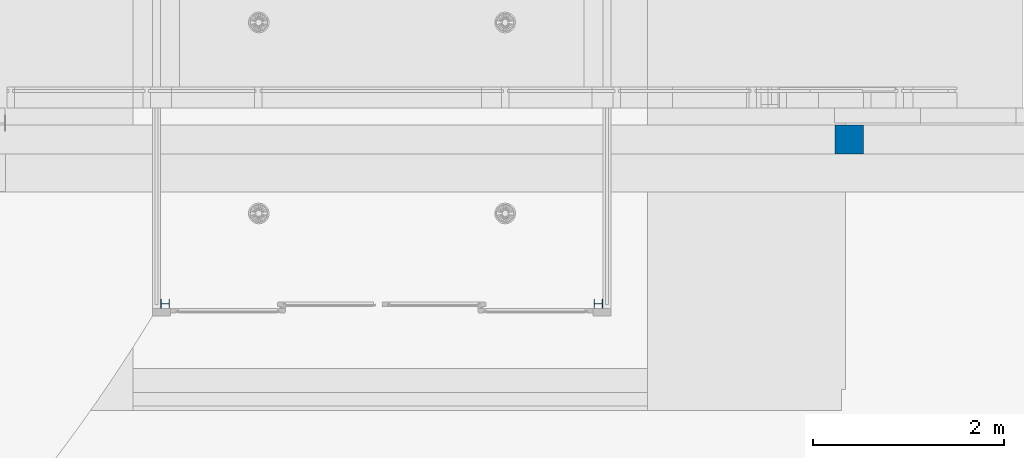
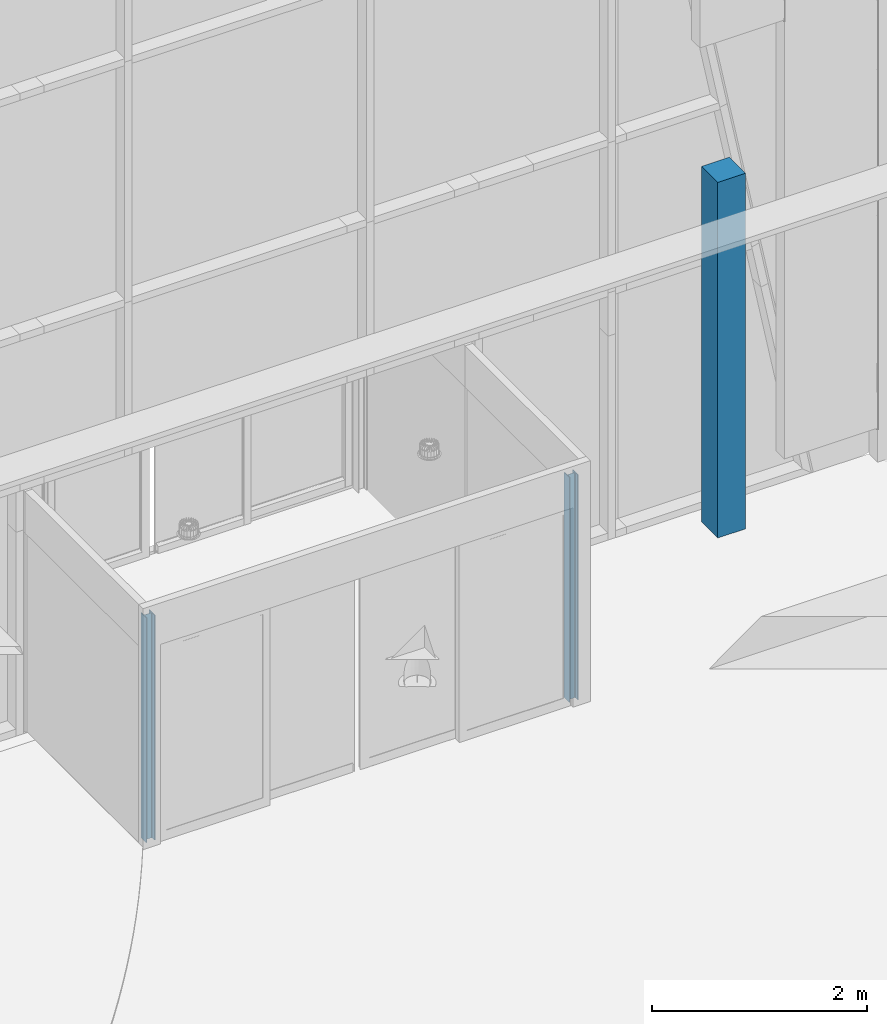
# One storey, part 4 of 302: 3 columns.
"""IFC2X3 building model written with IfcOpenShell, lengths in metres."""

from ifc_helpers import new_model, entity, si_unit, converted_unit, derived_unit, direction, frame, frame_2d, origin, origin_2d_with_axis, place, context, subcontext, project, spatial, polyline, circle_curve, parameter, trimmed, segment, composite_curve, rectangle, i_section, outline, extrude, source, transform, mapped, material, type_object, type_shapes, element, save


model = new_model("IFC2X3")

# Units and contexts
model_context = context("Model", 3, precision=1e-05, world=origin(), true_north=direction((6.12303176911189e-17, 1.0)))
body_context = subcontext(model_context, "Body", "Model", "MODEL_VIEW")
ifc_project = project(units=[si_unit("LENGTHUNIT", "METRE"), si_unit("AREAUNIT", "SQUARE_METRE"), si_unit("VOLUMEUNIT", "CUBIC_METRE"), converted_unit("PLANEANGLEUNIT", "DEGREE", entity("IfcRatioMeasure", 0.0174532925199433), si_unit("PLANEANGLEUNIT", "RADIAN"), dimensions=[0, 0, 0, 0, 0, 0, 0]), si_unit("MASSUNIT", "GRAM", prefix="KILO"), derived_unit("MASSDENSITYUNIT", [(si_unit("MASSUNIT", "GRAM", prefix="KILO"), 1), (si_unit("LENGTHUNIT", "METRE"), -3)]), derived_unit("MOMENTOFINERTIAUNIT", [(si_unit("LENGTHUNIT", "METRE"), 4)]), si_unit("TIMEUNIT", "SECOND"), si_unit("FREQUENCYUNIT", "HERTZ"), si_unit("THERMODYNAMICTEMPERATUREUNIT", "DEGREE_CELSIUS"), derived_unit("THERMALTRANSMITTANCEUNIT", [(si_unit("MASSUNIT", "GRAM", prefix="KILO"), 1), (si_unit("THERMODYNAMICTEMPERATUREUNIT", "KELVIN"), -1), (si_unit("TIMEUNIT", "SECOND"), -3)]), derived_unit("VOLUMETRICFLOWRATEUNIT", [(si_unit("LENGTHUNIT", "METRE"), 3), (si_unit("TIMEUNIT", "SECOND"), -1)]), si_unit("ELECTRICCURRENTUNIT", "AMPERE"), si_unit("ELECTRICVOLTAGEUNIT", "VOLT"), si_unit("POWERUNIT", "WATT"), si_unit("FORCEUNIT", "NEWTON", prefix="KILO"), si_unit("ILLUMINANCEUNIT", "LUX"), si_unit("LUMINOUSFLUXUNIT", "LUMEN"), si_unit("LUMINOUSINTENSITYUNIT", "CANDELA"), derived_unit("USERDEFINED", [(si_unit("MASSUNIT", "GRAM", prefix="KILO"), -1), (si_unit("LENGTHUNIT", "METRE"), -2), (si_unit("TIMEUNIT", "SECOND"), 3), (si_unit("LUMINOUSFLUXUNIT", "LUMEN"), 1)]), derived_unit("LINEARVELOCITYUNIT", [(si_unit("LENGTHUNIT", "METRE"), 1), (si_unit("TIMEUNIT", "SECOND"), -1)]), si_unit("PRESSUREUNIT", "PASCAL"), derived_unit("USERDEFINED", [(si_unit("LENGTHUNIT", "METRE"), -2), (si_unit("MASSUNIT", "GRAM", prefix="KILO"), 1), (si_unit("TIMEUNIT", "SECOND"), -2)]), derived_unit("LINEARFORCEUNIT", [(si_unit("MASSUNIT", "GRAM", prefix="KILO"), 1), (si_unit("LENGTHUNIT", "METRE"), 1), (si_unit("TIMEUNIT", "SECOND"), -2), (si_unit("LENGTHUNIT", "METRE"), -1)]), derived_unit("PLANARFORCEUNIT", [(si_unit("MASSUNIT", "GRAM", prefix="KILO"), 1), (si_unit("LENGTHUNIT", "METRE"), 1), (si_unit("TIMEUNIT", "SECOND"), -2), (si_unit("LENGTHUNIT", "METRE"), -2)])], contexts=[model_context])

# Site, building, storey
site_placement = place(None, origin())
site = spatial("IfcSite", under=ifc_project, at=site_placement, Name="Default", CompositionType="ELEMENT")
building_placement = place(site_placement, origin())
building = spatial("IfcBuilding", under=site, at=building_placement, CompositionType="ELEMENT")
storey_placement = place(building_placement, frame((0.0, 0.0, -1.3)))
storey = spatial("IfcBuildingStorey", under=building, at=storey_placement, Name="00_EG", CompositionType="ELEMENT", Elevation=-1.3)

# Columns
ifc_material_1 = material(Name="Ortbeton -Stütze")
column_type_1 = type_object("IfcColumnType", Name="STB Stütze - rechteckig:Stütze 300 x 300", PredefinedType="COLUMN", material=ifc_material_1)
shared_shape_1 = source(origin(), body_context, "Body", "SweptSolid", [
    extrude(rectangle(XDim=0.3, YDim=0.3, at=origin_2d_with_axis()), frame((0.0, 0.0, -0.0300000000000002), z_axis=(0.0, 0.0, 1.0), x_axis=(0.0, -1.0, 0.0)), (0.0, 0.0, 1.0), 4.03),
])
type_shapes(column_type_1, [shared_shape_1])
column_1_placement = place(storey_placement, frame((-227.360111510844, 45.4080889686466, 1.3)))
element("IfcColumn", 1, at=column_1_placement, inside=storey, type_object=column_type_1, material=ifc_material_1, Name="STB Stütze - rechteckig:Stütze 300 x 300", ObjectType="STB Stütze - rechteckig:Stütze 300 x 300", context=body_context, shape_type="MappedRepresentation", body=[
    mapped(shared_shape_1, transform((0.0, 0.0, 0.0), scale=1.0)),
])
ifc_material_2 = material(Name="Metall - Baustahl S235")
column_type_2 = type_object("IfcColumnType", Name="HEA Stütze:HEA 100", PredefinedType="COLUMN", material=ifc_material_2)
shared_shape_2 = source(origin(), body_context, "Body", "SweptSolid", [
    extrude(outline(composite_curve([segment(polyline([(0.04, -0.05), (0.048, -0.05)]), True, "CONTINUOUS"), segment(polyline([(0.048, -0.05), (0.048, 0.05)]), True, "CONTINUOUS"), segment(polyline([(0.048, 0.05), (0.04, 0.05)]), True, "CONTINUOUS"), segment(polyline([(0.04, 0.05), (0.04, 0.0145)]), True, "CONTINUOUS"), segment(trimmed(circle_curve(frame_2d((0.028, 0.0145), x_axis=(1.0, 0.0)), 0.012), [parameter(270.0)], [parameter(0.0)], True, "PARAMETER"), False, "CONTINUOUS"), segment(polyline([(0.028, 0.0025), (-0.028, 0.0025)]), True, "CONTINUOUS"), segment(trimmed(circle_curve(frame_2d((-0.028, 0.0145), x_axis=(0.0, -1.0)), 0.012), [parameter(270.0)], [parameter(0.0)], True, "PARAMETER"), False, "CONTINUOUS"), segment(polyline([(-0.04, 0.0145), (-0.04, 0.05)]), True, "CONTINUOUS"), segment(polyline([(-0.04, 0.05), (-0.048, 0.05)]), True, "CONTINUOUS"), segment(polyline([(-0.048, 0.05), (-0.048, -0.05)]), True, "CONTINUOUS"), segment(polyline([(-0.048, -0.05), (-0.04, -0.05)]), True, "CONTINUOUS"), segment(polyline([(-0.04, -0.05), (-0.04, -0.0145)]), True, "CONTINUOUS"), segment(trimmed(circle_curve(frame_2d((-0.028, -0.0145), x_axis=(-1.0, 0.0)), 0.012), [parameter(269.999999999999)], [parameter(0.0)], True, "PARAMETER"), False, "CONTINUOUS"), segment(polyline([(-0.028, -0.0025), (0.028, -0.0025)]), True, "CONTINUOUS"), segment(trimmed(circle_curve(frame_2d((0.028, -0.0145), x_axis=(0.0, 1.0)), 0.012), [parameter(270.0)], [parameter(0.0)], True, "PARAMETER"), False, "CONTINUOUS"), segment(polyline([(0.04, -0.0145), (0.04, -0.05)]), True, "CONTINUOUS")], self_intersect=False)), frame((0.0, 0.0, -0.0300000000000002), z_axis=(0.0, 0.0, 1.0), x_axis=(0.0, -1.0, 0.0)), (0.0, 0.0, 1.0), 2.55),
])
type_shapes(column_type_2, [shared_shape_2])
column_2_placement = place(storey_placement, frame((-234.521861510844, 43.688088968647, 1.3), z_axis=(0.0, 0.0, 1.0), x_axis=(0.0, 1.0, 0.0)))
element("IfcColumn", 2, at=column_2_placement, inside=storey, type_object=column_type_2, material=ifc_material_2, Name="HEA Stütze:HEA 100", ObjectType="HEA Stütze:HEA 100", context=body_context, shape_type="MappedRepresentation", body=[
    mapped(shared_shape_2, transform((0.0, 0.0, 0.0), scale=1.0)),
])
column_type_3 = type_object("IfcColumnType", Name="HEA Stütze:HEA 100", PredefinedType="COLUMN", material=ifc_material_2)
shared_shape_3 = source(origin(), body_context, "Body", "SweptSolid", [
    extrude(i_section(OverallWidth=0.1, OverallDepth=0.096, WebThickness=0.005, FlangeThickness=0.008, FilletRadius=0.012, at=frame_2d((0.0, 0.0), x_axis=(0.0, 1.0))), frame((0.0, 0.0, -0.0300000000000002), z_axis=(0.0, 0.0, 1.0), x_axis=(0.0, -1.0, 0.0)), (0.0, 0.0, 1.0), 2.55),
])
type_shapes(column_type_3, [shared_shape_3])
column_3_placement = place(storey_placement, frame((-229.985861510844, 43.688088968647, 1.3), z_axis=(0.0, 0.0, 1.0), x_axis=(0.0, 1.0, 0.0)))
element("IfcColumn", 3, at=column_3_placement, inside=storey, type_object=column_type_3, material=ifc_material_2, Name="HEA Stütze:HEA 100", ObjectType="HEA Stütze:HEA 100", context=body_context, shape_type="MappedRepresentation", body=[
    mapped(shared_shape_3, transform((0.0, 0.0, 0.0), scale=1.0)),
])

save(model, "model.ifc")
